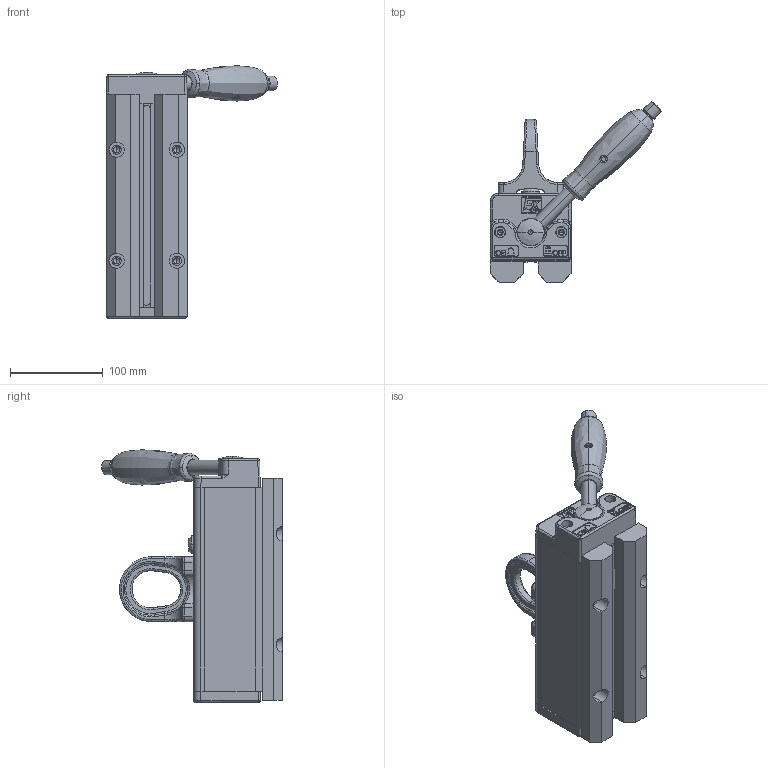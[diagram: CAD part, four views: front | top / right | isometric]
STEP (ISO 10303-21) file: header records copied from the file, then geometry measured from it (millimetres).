
FILE_DESCRIPTION (( 'STEP AP203' ), '1' );
FILE_NAME ('FXV0880.STEP', '2020-02-20T19:59:42', ( '' ), ( '' ), 'SwSTEP 2.0', 'SolidWorks 2018', '' );
FILE_SCHEMA (( 'CONFIG_CONTROL_DESIGN' ));
Products named in the file (1): FXV0880
Bounding box: 184.78 x 195.28 x 272.54 mm (x, y, z)
Volume: 2040820 mm3; surface area: 191234.6 mm2
Topology: 3 solids, 11 shells, 1221 faces, 2929 edges, 1671 vertices
Faces by surface type: bspline 380, plane 307, cylinder 292, cone 224, torus 14, sphere 4
Entity records: 75393 total; most frequent: CARTESIAN_POINT 50097, ORIENTED_EDGE 5614, DIRECTION 4635, EDGE_CURVE 2807, AXIS2_PLACEMENT_3D 1708, VERTEX_POINT 1670, EDGE_LOOP 1301, ADVANCED_FACE 1221
